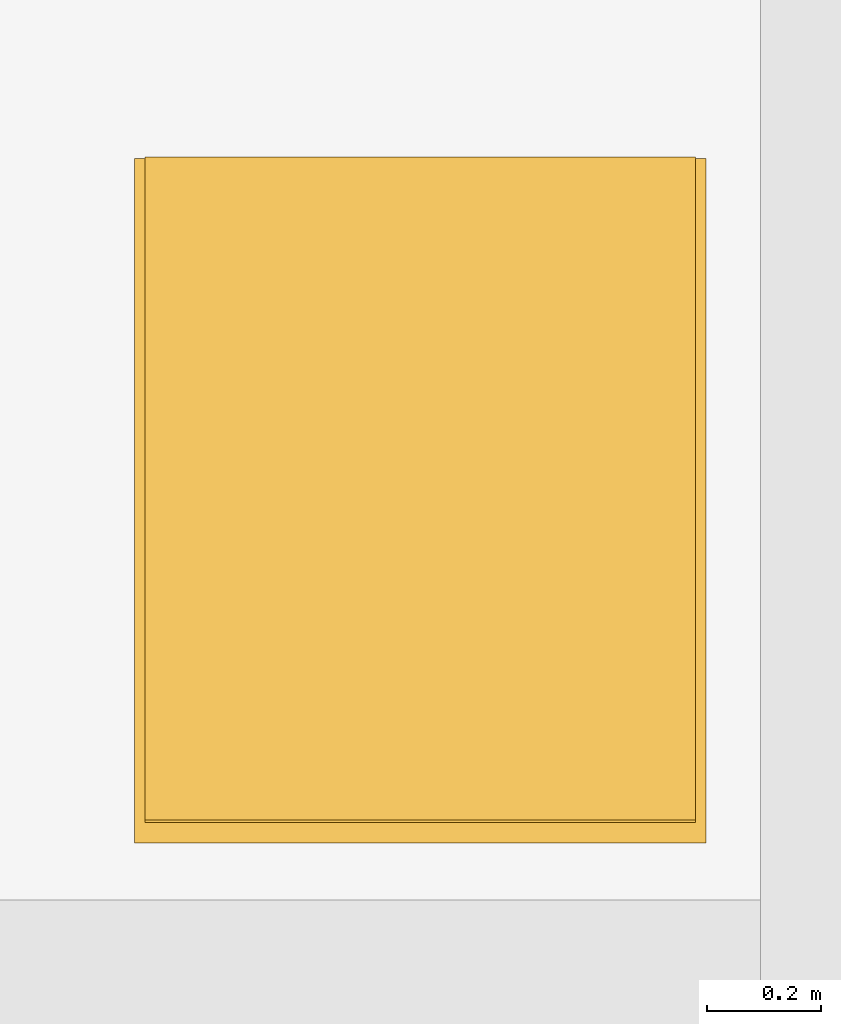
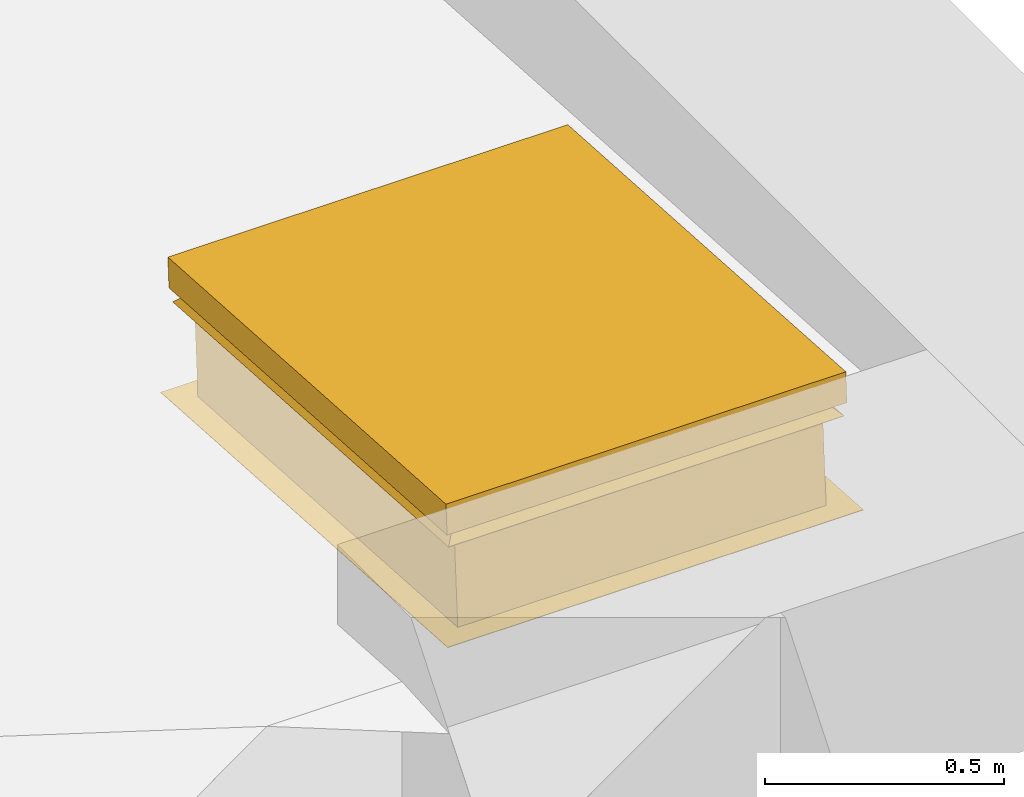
# One storey, part 4 of 6: 1 window.
"""IFC2X3 building model written with IfcOpenShell, lengths in millimetres."""

from ifc_helpers import new_model, entity, si_unit, converted_unit, derived_unit, direction, frame, origin, place, context, subcontext, project, spatial, faceted_brep, source, transform, mapped, material, material_list, type_object, type_shapes, element, save


model = new_model("IFC2X3")

# Units and contexts
model_context = context("Model", 3, precision=0.01, world=origin(), true_north=direction((6.12303176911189e-17, 1.0)))
body_context = subcontext(model_context, "Body", "Model", "MODEL_VIEW")
ifc_project = project(units=[si_unit("LENGTHUNIT", "METRE", prefix="MILLI"), si_unit("AREAUNIT", "SQUARE_METRE"), si_unit("VOLUMEUNIT", "CUBIC_METRE"), converted_unit("PLANEANGLEUNIT", "DEGREE", entity("IfcRatioMeasure", 0.0174532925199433), si_unit("PLANEANGLEUNIT", "RADIAN"), dimensions=[0, 0, 0, 0, 0, 0, 0]), si_unit("MASSUNIT", "GRAM", prefix="KILO"), derived_unit("MASSDENSITYUNIT", [(si_unit("MASSUNIT", "GRAM", prefix="KILO"), 1), (si_unit("LENGTHUNIT", "METRE"), -3)]), si_unit("TIMEUNIT", "SECOND"), si_unit("FREQUENCYUNIT", "HERTZ"), si_unit("THERMODYNAMICTEMPERATUREUNIT", "DEGREE_CELSIUS"), derived_unit("THERMALTRANSMITTANCEUNIT", [(si_unit("MASSUNIT", "GRAM", prefix="KILO"), 1), (si_unit("THERMODYNAMICTEMPERATUREUNIT", "KELVIN"), -1), (si_unit("TIMEUNIT", "SECOND"), -3)]), derived_unit("VOLUMETRICFLOWRATEUNIT", [(si_unit("LENGTHUNIT", "METRE"), 3), (si_unit("TIMEUNIT", "SECOND"), -1)]), si_unit("ELECTRICCURRENTUNIT", "AMPERE"), si_unit("ELECTRICVOLTAGEUNIT", "VOLT"), si_unit("POWERUNIT", "WATT"), si_unit("FORCEUNIT", "NEWTON", prefix="KILO"), si_unit("ILLUMINANCEUNIT", "LUX"), si_unit("LUMINOUSFLUXUNIT", "LUMEN"), si_unit("LUMINOUSINTENSITYUNIT", "CANDELA"), derived_unit("USERDEFINED", [(si_unit("MASSUNIT", "GRAM", prefix="KILO"), -1), (si_unit("LENGTHUNIT", "METRE"), -2), (si_unit("TIMEUNIT", "SECOND"), 3), (si_unit("LUMINOUSFLUXUNIT", "LUMEN"), 1)]), derived_unit("LINEARVELOCITYUNIT", [(si_unit("LENGTHUNIT", "METRE"), 1), (si_unit("TIMEUNIT", "SECOND"), -1)]), si_unit("PRESSUREUNIT", "PASCAL"), derived_unit("USERDEFINED", [(si_unit("LENGTHUNIT", "METRE"), -2), (si_unit("MASSUNIT", "GRAM", prefix="KILO"), 1), (si_unit("TIMEUNIT", "SECOND"), -2)])], contexts=[model_context])

# Site, building, storey
site_placement = place(None, frame((-151.875543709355, 2715.0, 0.0)))
site = spatial("IfcSite", under=ifc_project, at=site_placement, Name="Surface", CompositionType="ELEMENT")
building_placement = place(site_placement, origin())
building = spatial("IfcBuilding", under=site, at=building_placement, CompositionType="ELEMENT")
storey_placement = place(building_placement, frame((0.0, 0.0, 13600.0)))
storey = spatial("IfcBuildingStorey", under=building, at=storey_placement, Name="Katusekorrus", CompositionType="ELEMENT", Elevation=13600.0000000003)

# Window
ifc_material_1 = material(Name="Finish - Black")
ifc_material_2 = material(Name="Metal - Lexcor - Stainless Steel")
ifc_material_list_1 = material_list([ifc_material_1, ifc_material_2])
ifc_material_list_2 = material_list([ifc_material_1, ifc_material_2])
window_style = type_object("IfcWindowStyle", Name="KL-01", ConstructionType="NOTDEFINED", OperationType="NOTDEFINED", ParameterTakesPrecedence=False, Sizeable=False, material=ifc_material_list_2)
shared_shape = source(origin(), body_context, "Body", "Brep", [
    faceted_brep([(520.0, 420.0, 1.58750000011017), (520.0, -420.0, 1.58750000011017), (-520.0, -420.0, 1.58750000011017), (-520.0, 420.0, 1.58750000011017), (602.550000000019, 502.549999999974, 1.58750000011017), (-602.549999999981, 502.549999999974, 1.58750000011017), (-602.549999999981, -502.550000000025, 1.58750000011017), (602.550000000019, -502.550000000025, 1.58750000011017), (520.0, 420.0, 0.0), (-520.0, 420.0, 0.0), (-520.0, -420.0, 0.0), (520.0, -420.0, 0.0), (602.550000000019, 502.549999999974, 0.0), (602.550000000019, -502.550000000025, 0.0), (-602.549999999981, -502.550000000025, 0.0), (-602.549999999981, 502.549999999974, 0.0)], [[[0, 1, 2, 3], [4, 5, 6, 7]], [[8, 9, 10, 11], [12, 13, 14, 15]], [[1, 0, 8, 11]], [[2, 1, 11, 10]], [[3, 2, 10, 9]], [[0, 3, 9, 8]], [[5, 4, 12, 15]], [[6, 5, 15, 14]], [[7, 6, 14, 13]], [[4, 7, 13, 12]]], outer=[[False, True], [False, True], [True], [True], [True], [True], [True], [True], [True], [True]]),
    faceted_brep([(583.50000000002, 483.499999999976, 338.10000000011), (-583.49999999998, 483.499999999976, 338.10000000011), (-583.49999999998, -483.500000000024, 338.10000000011), (583.50000000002, -483.500000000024, 338.10000000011), (583.50000000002, 483.499999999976, 261.90000000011), (583.50000000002, -483.500000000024, 261.90000000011), (-583.49999999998, -483.500000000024, 261.90000000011), (-583.49999999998, 483.499999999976, 261.90000000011)], [[[0, 1, 2, 3]], [[4, 5, 6, 7]], [[1, 0, 4, 7]], [[2, 1, 7, 6]], [[3, 2, 6, 5]], [[0, 3, 5, 4]]]),
    faceted_brep([(560.64000000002, 460.639999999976, 246.40600000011), (560.64000000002, 460.639999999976, 300.0), (560.64000000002, -460.640000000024, 300.0), (560.64000000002, -460.640000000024, 246.40600000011), (578.600512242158, 478.600512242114, 228.445487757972), (578.600512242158, -478.600512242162, 228.445487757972), (576.35544821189, 476.355448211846, 226.200423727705), (576.35544821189, -476.355448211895, 226.200423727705), (557.46500000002, 457.464999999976, 245.090871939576), (557.46500000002, -457.465000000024, 245.090871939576), (557.46500000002, 457.464999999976, 296.82500000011), (557.46500000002, -457.465000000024, 296.82500000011), (545.40000000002, 445.399999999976, 300.0), (545.40000000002, 445.399999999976, 296.82500000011), (545.40000000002, -445.400000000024, 296.82500000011), (545.40000000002, -445.400000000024, 300.0), (-560.63999999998, -460.640000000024, 300.0), (-560.63999999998, -460.640000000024, 246.40600000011), (-578.600512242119, -478.600512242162, 228.445487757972), (-576.355448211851, -476.355448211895, 226.200423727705), (-557.46499999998, -457.465000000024, 245.090871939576), (-557.46499999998, -457.465000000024, 296.82500000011), (-545.39999999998, -445.400000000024, 296.82500000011), (-545.39999999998, -445.400000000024, 300.0), (-560.63999999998, 460.639999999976, 300.0), (-560.63999999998, 460.639999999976, 246.40600000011), (-578.600512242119, 478.600512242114, 228.445487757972), (-576.355448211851, 476.355448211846, 226.200423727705), (-557.46499999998, 457.464999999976, 245.090871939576), (-557.46499999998, 457.464999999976, 296.82500000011), (-545.39999999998, 445.399999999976, 296.82500000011), (-545.39999999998, 445.399999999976, 300.0)], [[[0, 1, 2, 3]], [[4, 0, 3, 5]], [[6, 4, 5, 7]], [[8, 6, 7, 9]], [[10, 8, 9, 11]], [[12, 13, 14, 15]], [[3, 2, 16, 17]], [[5, 3, 17, 18]], [[7, 5, 18, 19]], [[9, 7, 19, 20]], [[11, 9, 20, 21]], [[15, 14, 22, 23]], [[17, 16, 24, 25]], [[18, 17, 25, 26]], [[19, 18, 26, 27]], [[20, 19, 27, 28]], [[21, 20, 28, 29]], [[23, 22, 30, 31]], [[25, 24, 1, 0]], [[26, 25, 0, 4]], [[27, 26, 4, 6]], [[28, 27, 6, 8]], [[29, 28, 8, 10]], [[11, 21, 29, 10], [13, 30, 22, 14]], [[31, 30, 13, 12]], [[1, 24, 16, 2], [15, 23, 31, 12]]]),
    faceted_brep([(520.0, 420.0, 300.0), (520.0, -420.0, 300.0), (-520.0, -420.0, 300.0), (-520.0, 420.0, 300.0), (545.40000000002, 445.399999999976, 300.0), (-545.39999999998, 445.399999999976, 300.0), (-545.39999999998, -445.400000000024, 300.0), (545.40000000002, -445.400000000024, 300.0), (520.0, 420.0, 0.0), (-520.0, 420.0, 0.0), (-520.0, -420.0, 0.0), (520.0, -420.0, 0.0), (545.40000000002, 445.399999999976, 0.0), (545.40000000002, -445.400000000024, 0.0), (-545.39999999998, -445.400000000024, 0.0), (-545.39999999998, 445.399999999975, 0.0)], [[[0, 1, 2, 3], [4, 5, 6, 7]], [[8, 9, 10, 11], [12, 13, 14, 15]], [[1, 0, 8, 11]], [[2, 1, 11, 10]], [[3, 2, 10, 9]], [[0, 3, 9, 8]], [[5, 4, 12, 15]], [[6, 5, 15, 14]], [[7, 6, 14, 13]], [[4, 7, 13, 12]]], outer=[[False, True], [False, True], [True], [True], [True], [True], [True], [True], [True], [True]]),
])
type_shapes(window_style, [shared_shape])
window_placement = place(storey_placement, frame((34568.40093204, 7271.31997549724, 83.0704253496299), z_axis=(0.0, 0.0638356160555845, 0.997960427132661), x_axis=(0.0, -0.997960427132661, 0.0638356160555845)))
element("IfcWindow", 1, at=window_placement, inside=storey, type_object=window_style, material=ifc_material_list_1, Name="Katuseluuk:KL-01", ObjectType="KL-01", OverallHeight=541.300000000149, OverallWidth=1205.1, context=body_context, shape_type="MappedRepresentation", body=[
    mapped(shared_shape, transform((0.0, 0.0, 0.0), scale=1.0)),
])

save(model, "model.ifc")
